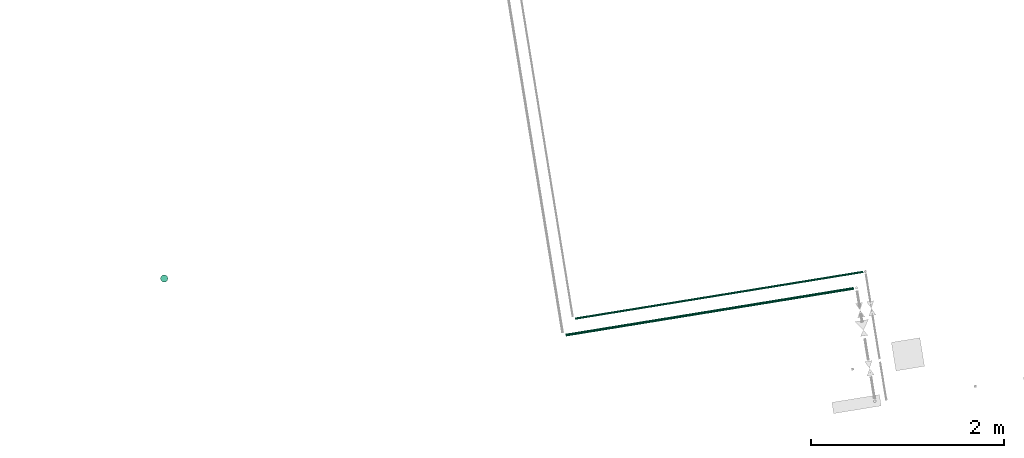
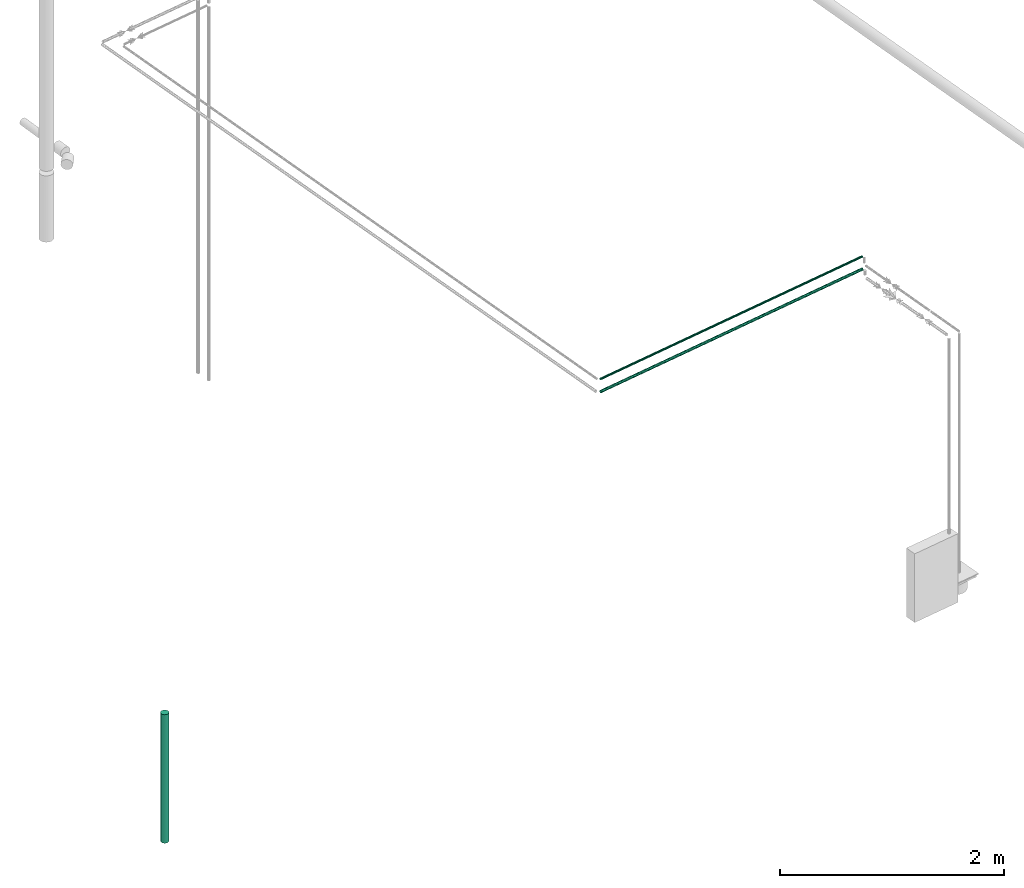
# One storey, part 1 of 10: 3 flow segments.
"""IFC2X3 building model written with IfcOpenShell, lengths in millimetres."""

import ifcopenshell
import ifcopenshell.guid

model = None  # the IFC model being written
_history = None  # IfcOwnerHistory: only IFC2X3 demands one
_inside = {}  # id of a spatial element -> (the spatial element, [elements in it])
_under = {}  # id of a project, library or spatial element -> (it, [spatial elements below it])
_declared = {}  # id of a project -> (the project, [libraries it declares])
_typed = {}  # id of a type object -> (the type object, [elements of that type])
_made_of = {}  # id of a material, layer set ... -> (it, [elements and type objects made of it])


def new_model(schema):
    """Start an empty IFC model of exactly this schema.

    Asked for "IFC4X3", IfcOpenShell would pick the latest addendum, in which some entities
    have other attributes; the version numbers below select the first issue.
    IFC2X3 requires an IfcOwnerHistory on every rooted entity: one is made here for all.
    """
    global model, _history
    if schema == "IFC4X3":
        model = ifcopenshell.file(schema_version=(4, 3, 0, 0))
    else:
        model = ifcopenshell.file(schema=schema)
    _inside.clear()
    _under.clear()
    _declared.clear()
    _typed.clear()
    _made_of.clear()
    _history = None
    if model.schema == "IFC2X3":
        org = make("IfcOrganization", Name="unknown")
        user = make(
            "IfcPersonAndOrganization",
            ThePerson=make("IfcPerson", FamilyName="unknown"),
            TheOrganization=org,
        )
        app = make(
            "IfcApplication",
            ApplicationDeveloper=org,
            Version="unknown",
            ApplicationFullName="unknown",
            ApplicationIdentifier="unknown",
        )
        _history = make(
            "IfcOwnerHistory",
            OwningUser=user,
            OwningApplication=app,
            ChangeAction="ADDED",
            CreationDate=0,
        )
    return model


def make(cls, **values):
    """One entity of the class cls with the attributes given. An attribute that is None is left unset."""
    return model.create_entity(
        cls, **{name: value for name, value in values.items() if value is not None}
    )


def entity(cls, *values):
    """Any entity or typed value of the class cls, its attributes in the order of the schema. None: left unset."""
    e = model.create_entity(cls)
    for i, value in enumerate(values):
        if value is not None:
            e[i] = value
    return e


def rooted(cls, **values):
    """An entity with a GlobalId (a new one), such as an element, a storey or a relation."""
    return make(cls, GlobalId=ifcopenshell.guid.new(), OwnerHistory=_history, **values)


def si_unit(unit_type, name, prefix=None):
    """IfcSIUnit, for example si_unit("LENGTHUNIT", "METRE", prefix="MILLI")."""
    return make("IfcSIUnit", UnitType=unit_type, Prefix=prefix, Name=name)


def converted_unit(unit_type, name, factor, base, dimensions=None, offset=None):
    """IfcConversionBasedUnit, such as the inch: factor (a typed value) times the base unit."""
    return make(
        "IfcConversionBasedUnit"
        if offset is None
        else "IfcConversionBasedUnitWithOffset",
        ConversionOffset=offset,
        Dimensions=None
        if dimensions is None
        else entity("IfcDimensionalExponents", *dimensions),
        UnitType=unit_type,
        Name=name,
        ConversionFactor=make(
            "IfcMeasureWithUnit", ValueComponent=factor, UnitComponent=base
        ),
    )


def derived_unit(unit_type, elements):
    """IfcDerivedUnit: a product of units, each with its exponent."""
    return make(
        "IfcDerivedUnit",
        Elements=[
            make("IfcDerivedUnitElement", Unit=unit, Exponent=power)
            for unit, power in elements
        ],
        UnitType=unit_type,
    )


def assignment(units):
    """IfcUnitAssignment: the units of a project."""
    return None if units is None else make("IfcUnitAssignment", Units=units)


def point(xyz):
    """IfcCartesianPoint."""
    return None if xyz is None else make("IfcCartesianPoint", Coordinates=xyz)


def direction(xyz):
    """IfcDirection."""
    return None if xyz is None else make("IfcDirection", DirectionRatios=xyz)


def frame(location, z_axis=None, x_axis=None):
    """IfcAxis2Placement3D, a coordinate frame: its origin and axes. An axis left out is left unset."""
    return make(
        "IfcAxis2Placement3D",
        Location=point(location),
        Axis=direction(z_axis),
        RefDirection=direction(x_axis),
    )


def frame_2d(location, x_axis=None):
    """IfcAxis2Placement2D, a coordinate frame in the plane: its origin and x axis."""
    return make(
        "IfcAxis2Placement2D", Location=point(location), RefDirection=direction(x_axis)
    )


def origin():
    """The frame at (0, 0, 0) with its axes left unset."""
    return frame((0.0, 0.0, 0.0))


def origin_with_axes():
    """The frame at (0, 0, 0) with the z axis (0, 0, 1) and the x axis (1, 0, 0) written out."""
    return frame((0.0, 0.0, 0.0), z_axis=(0.0, 0.0, 1.0), x_axis=(1.0, 0.0, 0.0))


def origin_2d_with_axis():
    """The frame at (0, 0) in the plane with the x axis (1, 0) written out."""
    return frame_2d((0.0, 0.0), x_axis=(1.0, 0.0))


def place(relative_to, where):
    """IfcLocalPlacement: puts the frame where relative to a parent placement (None: the world)."""
    return make(
        "IfcLocalPlacement", PlacementRelTo=relative_to, RelativePlacement=where
    )


def context(
    kind, dimensions, precision=None, world=None, true_north=None, identifier=None
):
    """IfcGeometricRepresentationContext, for example the 3D "Model" context."""
    return make(
        "IfcGeometricRepresentationContext",
        ContextIdentifier=identifier,
        ContextType=kind,
        CoordinateSpaceDimension=dimensions,
        Precision=precision,
        WorldCoordinateSystem=world,
        TrueNorth=true_north,
    )


def subcontext(parent, identifier, kind, view, scale=None):
    """IfcGeometricRepresentationSubContext, for example "Body" below "Model"."""
    return make(
        "IfcGeometricRepresentationSubContext",
        ContextIdentifier=identifier,
        ContextType=kind,
        ParentContext=parent,
        TargetScale=scale,
        TargetView=view,
    )


def project(units=None, contexts=None):
    """IfcProject with its units and contexts."""
    return rooted(
        "IfcProject",
        Name="project",
        RepresentationContexts=contexts,
        UnitsInContext=assignment(units),
    )


def spatial(cls, under=None, at=None, **own):
    """A site, building, storey or space (cls), placed at a placement, below another one or the project."""
    s = rooted(cls, ObjectPlacement=at, **own)
    if under is not None:
        _under.setdefault(under.id(), (under, []))[1].append(s)
    return s


def profile(cls, at=None, kind="AREA", **sizes):
    """A parametric profile (cls). Its sizes go by their IFC names, for example OverallWidth=200.0."""
    return make(cls, ProfileType=kind, Position=at, **sizes)


def circle(**sizes):
    """IfcCircleProfileDef."""
    return profile("IfcCircleProfileDef", **sizes)


def extrude(swept, where, along, depth):
    """IfcExtrudedAreaSolid: the profile swept, set in the frame where, extruded along a direction by depth."""
    return make(
        "IfcExtrudedAreaSolid",
        SweptArea=swept,
        Position=where,
        ExtrudedDirection=direction(along),
        Depth=depth,
    )


def shape(context_of_items, identifier, shape_type, items):
    """IfcShapeRepresentation: the items that make up one representation, for example the "Body"."""
    return make(
        "IfcShapeRepresentation",
        ContextOfItems=context_of_items,
        RepresentationIdentifier=identifier,
        RepresentationType=shape_type,
        Items=items,
    )


def made_of(thing, what):
    """Note that an element or type object is made of a material, layer set ...; save() writes the relation."""
    if what is not None:
        _made_of.setdefault(what.id(), (what, []))[1].append(thing)
    return thing


def type_object(cls, material=None, **own):
    """A type object (cls), such as IfcWallType, which elements share."""
    return made_of(rooted(cls, **own), material)


def element(
    cls,
    number,
    at=None,
    inside=None,
    cuts=None,
    type_object=None,
    material=None,
    context=None,
    identifier="Body",
    shape_type=None,
    held_by="IfcProductDefinitionShape",
    body=None,
    shapes=None,
    **own,
):
    """One element of the class cls, such as IfcWall. Its Tag is "e" and its number.

    at: its placement. inside: the storey or other place that contains it. cuts: it is an
    opening in that element (IfcRelVoidsElement). A single representation is given by context,
    identifier, shape_type and body (its items); several are given by shapes. held_by: the class
    of the entity that holds the representations. save() writes the other relations.
    """
    e = rooted(cls, Tag="e%d" % number, ObjectPlacement=at, **own)
    if body is not None:
        shapes = [shape(context, identifier, shape_type, body)]
    if shapes is not None:
        e.Representation = make(held_by, Representations=shapes)
    if inside is not None:
        _inside.setdefault(inside.id(), (inside, []))[1].append(e)
    if cuts is not None:
        rooted(
            "IfcRelVoidsElement", RelatingBuildingElement=cuts, RelatedOpeningElement=e
        )
    if type_object is not None:
        _typed.setdefault(type_object.id(), (type_object, []))[1].append(e)
    return made_of(e, material)


def aggregate(whole, parts):
    """IfcRelAggregates: a whole, such as a stair, and the parts it consists of."""
    return rooted("IfcRelAggregates", RelatingObject=whole, RelatedObjects=parts)


def save(model, path):
    """Write the relations noted so far, then the file.

    IfcRelAggregates (storeys below a building ...), IfcRelContainedInSpatialStructure (elements
    in a storey), IfcRelDefinesByType, IfcRelAssociatesMaterial and IfcRelDeclares: one each for
    every whole, place, type object, material and project.
    """
    for whole, parts in _under.values():
        aggregate(whole, parts)
    for where, things in _inside.values():
        rooted(
            "IfcRelContainedInSpatialStructure",
            RelatedElements=things,
            RelatingStructure=where,
        )
    for kind, things in _typed.values():
        rooted("IfcRelDefinesByType", RelatedObjects=things, RelatingType=kind)
    for what, things in _made_of.values():
        rooted("IfcRelAssociatesMaterial", RelatedObjects=things, RelatingMaterial=what)
    for by, libraries in _declared.values():
        rooted("IfcRelDeclares", RelatingContext=by, RelatedDefinitions=libraries)
    model.write(path)


model = new_model("IFC2X3")

# Units and contexts
model_context = context("Model", 3, precision=0.01, world=origin(), true_north=direction((6.12323399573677e-17, 1.0)))
plan_context = context("Plan", 3, precision=1e-05, world=origin_with_axes())
body_context = subcontext(model_context, "Body", "Model", "MODEL_VIEW")
ifc_project = project(units=[converted_unit("PLANEANGLEUNIT", "DEGREE", entity("IfcPositiveLengthMeasure", 0.0174532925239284), si_unit("PLANEANGLEUNIT", "RADIAN"), dimensions=[0, 0, 0, 0, 0, 0, 0]), si_unit("AREAUNIT", "SQUARE_METRE"), si_unit("LENGTHUNIT", "METRE", prefix="MILLI"), si_unit("MASSUNIT", "GRAM", prefix="KILO"), si_unit("POWERUNIT", "WATT"), si_unit("PRESSUREUNIT", "PASCAL", prefix="KILO"), si_unit("FORCEUNIT", "NEWTON", prefix="KILO"), si_unit("ELECTRICVOLTAGEUNIT", "VOLT"), si_unit("ELECTRICCURRENTUNIT", "AMPERE"), si_unit("THERMODYNAMICTEMPERATUREUNIT", "DEGREE_CELSIUS"), si_unit("TIMEUNIT", "SECOND"), si_unit("VOLUMEUNIT", "CUBIC_METRE"), derived_unit("LINEARVELOCITYUNIT", [(si_unit("LENGTHUNIT", "METRE"), 1), (si_unit("TIMEUNIT", "SECOND"), -1)]), derived_unit("VOLUMETRICFLOWRATEUNIT", [(si_unit("VOLUMEUNIT", "CUBIC_METRE"), 1), (si_unit("TIMEUNIT", "SECOND"), -1)]), derived_unit("THERMALTRANSMITTANCEUNIT", [(si_unit("POWERUNIT", "WATT"), 1), (si_unit("THERMODYNAMICTEMPERATUREUNIT", "KELVIN"), -1), (si_unit("AREAUNIT", "SQUARE_METRE"), -1)]), derived_unit("SOUNDPRESSUREUNIT", [(si_unit("PRESSUREUNIT", "PASCAL"), 1)])], contexts=[model_context, plan_context])

# Site, building, storey
site_placement = place(None, frame((-0.000710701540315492, 0.00438415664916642, 0.0), z_axis=(0.0, 0.0, 1.0), x_axis=(-0.160236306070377, 0.987078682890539, 0.0)))
site = spatial("IfcSite", under=ifc_project, at=site_placement, Name="Default", CompositionType="ELEMENT")
building_placement = place(site_placement, origin_with_axes())
building = spatial("IfcBuilding", under=site, at=building_placement, CompositionType="ELEMENT")
storey_placement = place(building_placement, frame((0.0, 0.0, 50999.9999999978), z_axis=(0.0, 0.0, 1.0), x_axis=(1.0, 0.0, 0.0)))
storey = spatial("IfcBuildingStorey", under=building, at=storey_placement, Name="Nivå D", CompositionType="ELEMENT", Elevation=50999.9999999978)

# Flow segments
pipe_segment_type_1 = type_object("IfcPipeSegmentType", Name="Pipe Types:MA", PredefinedType="NOTDEFINED")
flow_segment_1_placement = place(storey_placement, origin_with_axes())
element("IfcFlowSegment", 1, at=flow_segment_1_placement, inside=storey, type_object=pipe_segment_type_1, Name="Pipe Types:MA", ObjectType="Pipe Types:MA", context=body_context, shape_type="SweptSolid", body=[
    extrude(circle(Radius=37.5, at=origin_2d_with_axis()), frame((771347.619644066, -589560.815140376, -703.649744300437), z_axis=(0.0, 0.0, 1.0), x_axis=(-1.0, 0.0, 0.0)), (0.0, 0.0, 1.0), 1403.3704268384),
])
pipe_segment_type_2 = type_object("IfcPipeSegmentType", Name="Pipe Types:Kobberrør", PredefinedType="NOTDEFINED")
flow_segment_2_placement = place(storey_placement, origin_with_axes())
element("IfcFlowSegment", 2, at=flow_segment_2_placement, inside=storey, type_object=pipe_segment_type_2, Name="Pipe Types:Kobberrør", ObjectType="Pipe Types:Kobberrør", context=body_context, shape_type="SweptSolid", body=[
    extrude(circle(Radius=14.0, at=origin_2d_with_axis()), frame((770102.383502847, -596599.303776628, 3100.0), z_axis=(0.0, 1.0, 0.0), x_axis=(-1.0, 0.0, 0.0)), (0.0, 0.0, 1.0), 3025.23615957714),
])
flow_segment_3_placement = place(storey_placement, origin_with_axes())
element("IfcFlowSegment", 3, at=flow_segment_3_placement, inside=storey, type_object=pipe_segment_type_2, Name="Pipe Types:Kobberrør", ObjectType="Pipe Types:Kobberrør", context=body_context, shape_type="SweptSolid", body=[
    extrude(circle(Radius=11.0, at=origin_2d_with_axis()), frame((770255.383502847, -596723.303776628, 3100.0), z_axis=(0.0, 1.0, 0.0), x_axis=(-1.0, 0.0, 0.0)), (0.0, 0.0, 1.0), 3025.23615957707),
])

save(model, "model.ifc")
